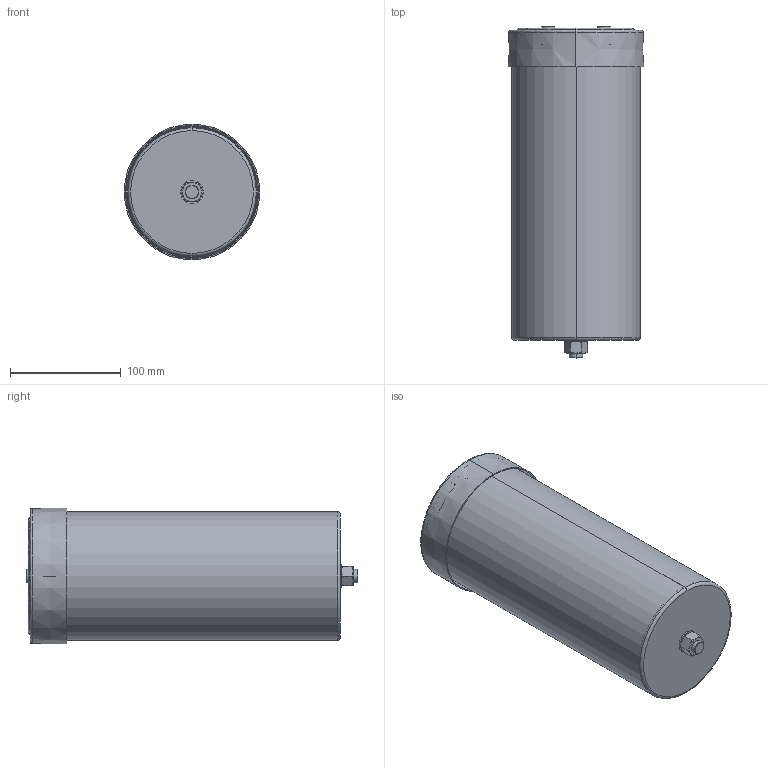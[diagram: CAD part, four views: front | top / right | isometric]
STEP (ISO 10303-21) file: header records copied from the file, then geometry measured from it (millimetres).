
FILE_DESCRIPTION (( 'STEP AP203' ), '1' );
FILE_NAME ('B25680Cx_116x282_284.STEP', '2021-09-30T03:44:05', ( '' ), ( '' ), 'SwSTEP 2.0', 'SolidWorks 2017', '' );
FILE_SCHEMA (( 'CONFIG_CONTROL_DESIGN' ));
Length unit declared in the file: millimetre
Products named in the file (1): B25680Cx_116x282_284
Bounding box: 122.58 x 300 x 122.58 mm (x, y, z)
Volume: 188032.8 mm3; surface area: 320898.1 mm2
Topology: 1 solids, 7 shells, 577 faces, 1430 edges, 903 vertices
Faces by surface type: plane 209, cylinder 168, bspline 83, cone 75, torus 42
Entity records: 20405 total; most frequent: CARTESIAN_POINT 6993, ORIENTED_EDGE 2834, DIRECTION 2774, EDGE_CURVE 1417, AXIS2_PLACEMENT_3D 1124, VERTEX_POINT 903, EDGE_LOOP 640, CIRCLE 629
